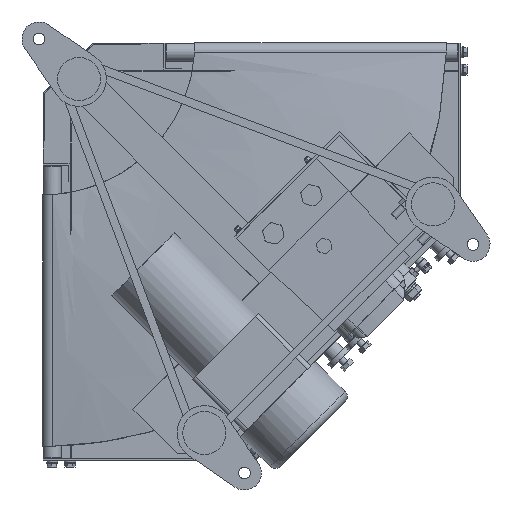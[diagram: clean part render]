
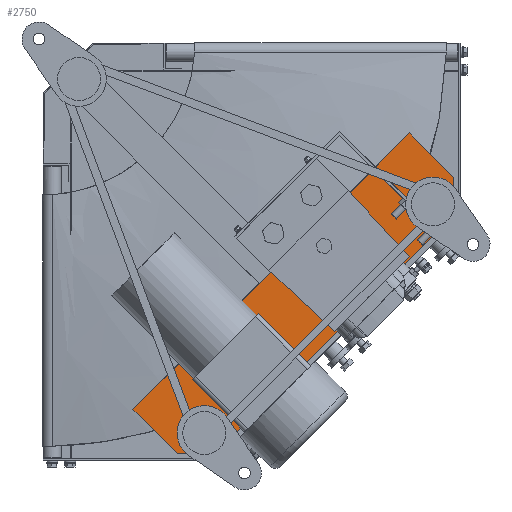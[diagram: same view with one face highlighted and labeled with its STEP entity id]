
A CAD part, front view. The second image highlights one B-rep face of the part: STEP entity #2750.
In plain terms, the highlighted planar face has unit normal (0, -1, 0).
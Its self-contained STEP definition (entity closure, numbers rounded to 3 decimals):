
#582 = VERTEX_POINT ( 'NONE', #35977 ) ;
#1918 = DIRECTION ( 'NONE',  ( -0.707, 0., 0.707 ) ) ;
#2298 = DIRECTION ( 'NONE',  ( 0., 1., 0. ) ) ;
#2750 = ADVANCED_FACE ( 'NONE', ( #10446 ), #24394, .F. ) ;
#2774 = LINE ( 'NONE', #25825, #30159 ) ;
#5301 = VECTOR ( 'NONE', #18947, 1000. ) ;
#5428 = VECTOR ( 'NONE', #1918, 1000. ) ;
#5783 = DIRECTION ( 'NONE',  ( 0., 0., -1. ) ) ;
#5840 = EDGE_CURVE ( 'NONE', #582, #9704, #33566, .T. ) ;
#6928 = EDGE_CURVE ( 'NONE', #14729, #26568, #40556, .T. ) ;
#8373 = CARTESIAN_POINT ( 'NONE',  ( 149.553, -167.5, -457.145 ) ) ;
#9704 = VERTEX_POINT ( 'NONE', #8373 ) ;
#10179 = CARTESIAN_POINT ( 'NONE',  ( 407.647, -167.5, -100.056 ) ) ;
#10446 = FACE_OUTER_BOUND ( 'NONE', #18624, .T. ) ;
#10598 = VERTEX_POINT ( 'NONE', #20346 ) ;
#13113 = ORIENTED_EDGE ( 'NONE', *, *, #6928, .F. ) ;
#13611 = CARTESIAN_POINT ( 'NONE',  ( 149.553, -167.5, -457.145 ) ) ;
#14722 = EDGE_CURVE ( 'NONE', #9704, #14729, #20516, .T. ) ;
#14729 = VERTEX_POINT ( 'NONE', #43803 ) ;
#16804 = ORIENTED_EDGE ( 'NONE', *, *, #24996, .F. ) ;
#16881 = CARTESIAN_POINT ( 'NONE',  ( 457.145, -167.5, -191.979 ) ) ;
#17419 = CARTESIAN_POINT ( 'NONE',  ( 100.056, -167.5, -407.647 ) ) ;
#18624 = EDGE_LOOP ( 'NONE', ( #24340, #24978, #13113, #21781, #36967, #16804 ) ) ;
#18947 = DIRECTION ( 'NONE',  ( 0.707, 0., -0.707 ) ) ;
#20346 = CARTESIAN_POINT ( 'NONE',  ( 457.145, -167.5, -149.553 ) ) ;
#20516 = LINE ( 'NONE', #22949, #5428 ) ;
#21781 = ORIENTED_EDGE ( 'NONE', *, *, #14722, .F. ) ;
#22949 = CARTESIAN_POINT ( 'NONE',  ( 100.056, -167.5, -407.647 ) ) ;
#23591 = VECTOR ( 'NONE', #5783, 1000. ) ;
#24340 = ORIENTED_EDGE ( 'NONE', *, *, #29490, .F. ) ;
#24394 = PLANE ( 'NONE',  #37672 ) ;
#24567 = DIRECTION ( 'NONE',  ( 0., 0., 1. ) ) ;
#24978 = ORIENTED_EDGE ( 'NONE', *, *, #45070, .F. ) ;
#24996 = EDGE_CURVE ( 'NONE', #30761, #582, #2774, .T. ) ;
#25825 = CARTESIAN_POINT ( 'NONE',  ( 191.979, -167.5, -457.145 ) ) ;
#25859 = VECTOR ( 'NONE', #46818, 1000. ) ;
#26568 = VERTEX_POINT ( 'NONE', #10179 ) ;
#27912 = DIRECTION ( 'NONE',  ( -1., 0., 0. ) ) ;
#28132 = CARTESIAN_POINT ( 'NONE',  ( 0., -167.5, 0. ) ) ;
#29490 = EDGE_CURVE ( 'NONE', #10598, #30761, #39456, .T. ) ;
#29643 = DIRECTION ( 'NONE',  ( -0.707, 0., -0.707 ) ) ;
#30159 = VECTOR ( 'NONE', #29643, 1000. ) ;
#30761 = VERTEX_POINT ( 'NONE', #16881 ) ;
#32726 = LINE ( 'NONE', #34204, #5301 ) ;
#33566 = LINE ( 'NONE', #13611, #42295 ) ;
#34204 = CARTESIAN_POINT ( 'NONE',  ( 407.647, -167.5, -100.056 ) ) ;
#35977 = CARTESIAN_POINT ( 'NONE',  ( 191.979, -167.5, -457.145 ) ) ;
#36967 = ORIENTED_EDGE ( 'NONE', *, *, #5840, .F. ) ;
#37672 = AXIS2_PLACEMENT_3D ( 'NONE', #28132, #2298, #24567 ) ;
#39456 = LINE ( 'NONE', #42820, #23591 ) ;
#40556 = LINE ( 'NONE', #17419, #25859 ) ;
#42295 = VECTOR ( 'NONE', #27912, 1000. ) ;
#42820 = CARTESIAN_POINT ( 'NONE',  ( 457.145, -167.5, -191.979 ) ) ;
#43803 = CARTESIAN_POINT ( 'NONE',  ( 100.056, -167.5, -407.647 ) ) ;
#45070 = EDGE_CURVE ( 'NONE', #26568, #10598, #32726, .T. ) ;
#46818 = DIRECTION ( 'NONE',  ( 0.707, 0., 0.707 ) ) ;
